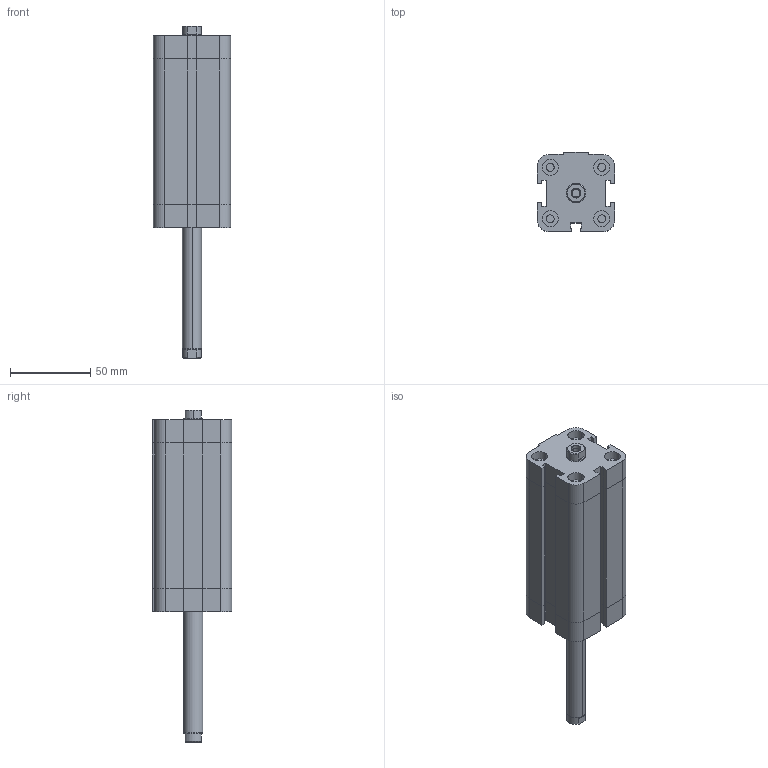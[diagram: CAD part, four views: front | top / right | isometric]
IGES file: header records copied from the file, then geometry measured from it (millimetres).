
Global section: file name: No Iges File Name specified; native system: Autodesk Inventor 2009; preprocessor: AutoDesk Inventor Iges Exporter R2009; author: maffial1; date: 20090420.200534; units: millimetre
Bounding box: 48 x 49.5 x 206.5 mm (x, y, z)
Volume: 253245.4 mm3; surface area: 48235.4 mm2
Topology: 2 solids, 2 shells, 202 faces, 450 edges, 274 vertices
Faces by surface type: plane 114, bspline 42, revolution 20, cylinder 18, cone 8
